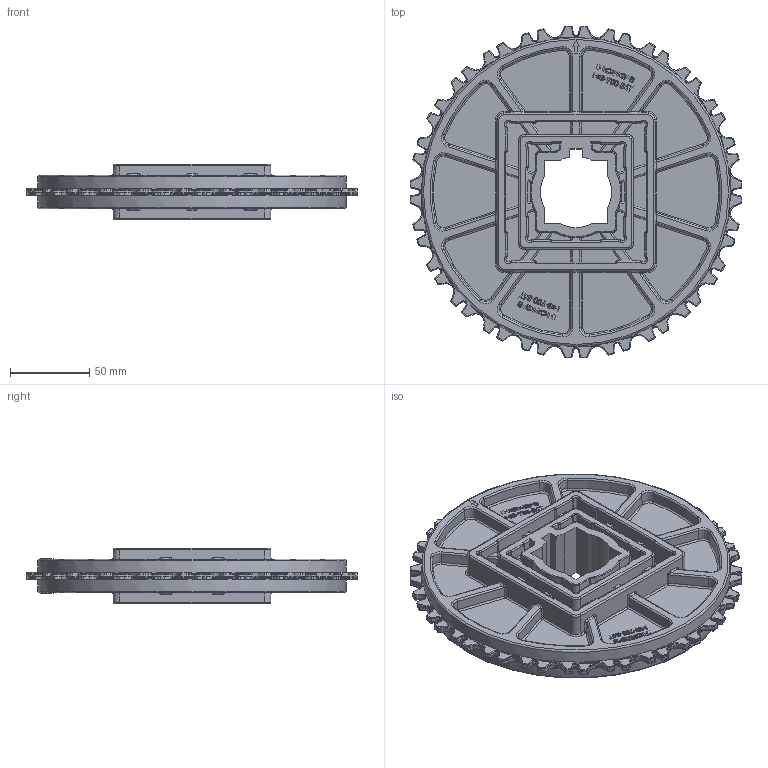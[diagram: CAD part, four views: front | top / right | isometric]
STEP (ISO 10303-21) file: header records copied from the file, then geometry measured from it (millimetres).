
FILE_DESCRIPTION(/* description */ (''),/* implementation_level */ '2;1');
FILE_NAME(/* name */ 'HS-700-24T.stp',/* time_stamp */ '2025-03-26T10:15:16+08:00',/* author */ (''),/* organization */ (''),/* preprocessor_version */ 'ST-DEVELOPER v15',/* originating_system */ 'SIEMENS PLM Software NX 8.5',/* authorisation */ '');
FILE_SCHEMA (('AP203_CONFIGURATION_CONTROLLED_3D_DESIGN_OF_MECHANICAL_PARTS_AND_ASSEMBLIES_MIM_LF { 1 0 10303 403 2 1 2}'));
Products named in the file (1): Admi277827DA94c6
Bounding box: 209.79 x 209.79 x 35.2 mm (x, y, z)
Volume: 405483.9 mm3; surface area: 138951.4 mm2
Topology: 1 solids, 1 shells, 3898 faces, 9581 edges, 5755 vertices
Faces by surface type: plane 1369, cylinder 841, bspline 564, cone 472, torus 393, extrusion 221, sphere 38
Entity records: 152727 total; most frequent: CARTESIAN_POINT 36983, ORIENTED_EDGE 19070, DIRECTION 17947, EDGE_CURVE 9535, AXIS2_PLACEMENT_3D 6679, VERTEX_POINT 5751, VECTOR 4589, LINE 4368
